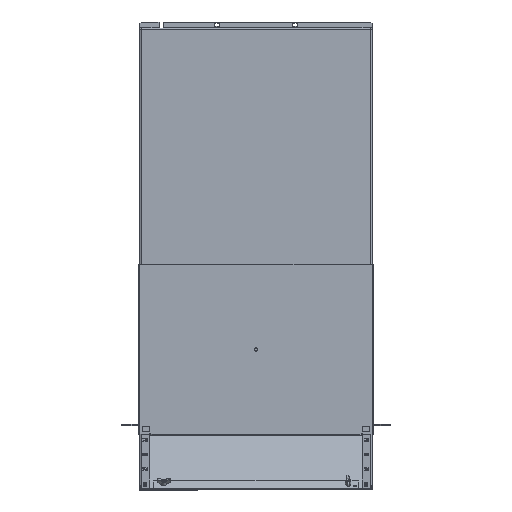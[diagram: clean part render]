
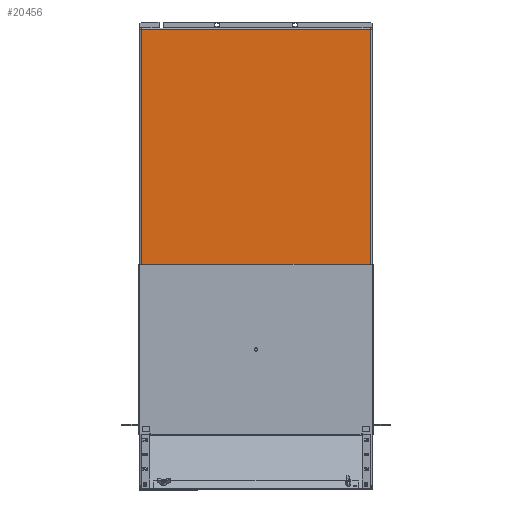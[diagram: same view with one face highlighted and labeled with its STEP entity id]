
A CAD part, top view. The second image highlights one B-rep face of the part: STEP entity #20456.
In plain terms, the highlighted planar face has unit normal (0, 0, 1).
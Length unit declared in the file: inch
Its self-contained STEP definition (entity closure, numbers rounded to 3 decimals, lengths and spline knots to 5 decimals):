
#19310=CARTESIAN_POINT('',(-8.48788,-2.04086,0.047));
#19311=VERTEX_POINT('',#19310);
#19318=CARTESIAN_POINT('',(-8.23788,-2.04086,0.047));
#19319=VERTEX_POINT('',#19318);
#19320=CARTESIAN_POINT('',(-8.36288,-2.04086,0.047));
#19321=DIRECTION('',(0.0,0.0,-1.0));
#19322=DIRECTION('',(0.0,1.0,0.0));
#19323=AXIS2_PLACEMENT_3D('',#19320,#19321,#19322);
#19324=CIRCLE('',#19323,0.125);
#19325=EDGE_CURVE('',#19319,#19311,#19324,.T.);
#19350=CARTESIAN_POINT('',(-8.23788,2.70914,0.047));
#19351=VERTEX_POINT('',#19350);
#19352=CARTESIAN_POINT('',(-8.23788,2.70914,0.047));
#19353=DIRECTION('',(0.0,-1.0,0.0));
#19354=VECTOR('',#19353,4.75);
#19355=LINE('',#19352,#19354);
#19356=EDGE_CURVE('',#19351,#19319,#19355,.T.);
#19382=CARTESIAN_POINT('',(-8.48788,2.70914,0.047));
#19383=VERTEX_POINT('',#19382);
#19384=CARTESIAN_POINT('',(-8.36288,2.70914,0.047));
#19385=DIRECTION('',(0.0,0.0,-1.0));
#19386=DIRECTION('',(0.0,-1.0,0.0));
#19387=AXIS2_PLACEMENT_3D('',#19384,#19385,#19386);
#19388=CIRCLE('',#19387,0.125);
#19389=EDGE_CURVE('',#19383,#19351,#19388,.T.);
#19412=CARTESIAN_POINT('',(-8.48788,-2.04086,0.047));
#19413=DIRECTION('',(0.0,1.0,0.0));
#19414=VECTOR('',#19413,4.75);
#19415=LINE('',#19412,#19414);
#19416=EDGE_CURVE('',#19311,#19383,#19415,.T.);
#19648=CARTESIAN_POINT('',(-16.47338,-3.41586,0.047));
#19649=VERTEX_POINT('',#19648);
#19658=CARTESIAN_POINT('',(-16.47338,-3.33886,0.047));
#19659=VERTEX_POINT('',#19658);
#19660=CARTESIAN_POINT('',(-16.47338,-3.33886,0.047));
#19661=DIRECTION('',(0.0,-1.0,0.0));
#19662=VECTOR('',#19661,0.077);
#19663=LINE('',#19660,#19662);
#19664=EDGE_CURVE('',#19659,#19649,#19663,.T.);
#19785=CARTESIAN_POINT('',(-0.25238,-3.41586,0.047));
#19786=VERTEX_POINT('',#19785);
#19793=CARTESIAN_POINT('',(-0.25238,-3.41586,0.047));
#19794=DIRECTION('',(-1.0,0.0,0.0));
#19795=VECTOR('',#19794,16.221);
#19796=LINE('',#19793,#19795);
#19797=EDGE_CURVE('',#19786,#19649,#19796,.T.);
#19975=CARTESIAN_POINT('',(-0.25238,-3.33886,0.047));
#19976=VERTEX_POINT('',#19975);
#19983=CARTESIAN_POINT('',(-0.25238,-3.41586,0.047));
#19984=DIRECTION('',(0.0,1.0,0.0));
#19985=VECTOR('',#19984,0.077);
#19986=LINE('',#19983,#19985);
#19987=EDGE_CURVE('',#19786,#19976,#19986,.T.);
#20071=CARTESIAN_POINT('',(-0.25238,24.50714,0.047));
#20072=VERTEX_POINT('',#20071);
#20080=CARTESIAN_POINT('',(-0.25238,-3.33886,0.047));
#20081=DIRECTION('',(0.0,1.0,0.0));
#20082=VECTOR('',#20081,27.846);
#20083=LINE('',#20080,#20082);
#20084=EDGE_CURVE('',#19976,#20072,#20083,.T.);
#20256=CARTESIAN_POINT('',(-16.47338,24.50714,0.047));
#20257=VERTEX_POINT('',#20256);
#20362=CARTESIAN_POINT('',(-16.47338,24.50714,0.047));
#20363=DIRECTION('',(0.0,-1.0,0.0));
#20364=VECTOR('',#20363,27.846);
#20365=LINE('',#20362,#20364);
#20366=EDGE_CURVE('',#20257,#19659,#20365,.T.);
#20420=CARTESIAN_POINT('',(-0.25238,24.50714,0.047));
#20421=DIRECTION('',(-1.0,0.0,0.0));
#20422=VECTOR('',#20421,16.221);
#20423=LINE('',#20420,#20422);
#20424=EDGE_CURVE('',#20072,#20257,#20423,.T.);
#20437=CARTESIAN_POINT('',(-8.36288,10.58414,0.047));
#20438=DIRECTION('',(0.0,0.0,1.0));
#20439=DIRECTION('',(1.0,0.0,0.0));
#20440=AXIS2_PLACEMENT_3D('',#20437,#20438,#20439);
#20441=PLANE('',#20440);
#20442=ORIENTED_EDGE('',*,*,#20366,.T.);
#20443=ORIENTED_EDGE('',*,*,#19664,.T.);
#20444=ORIENTED_EDGE('',*,*,#19797,.F.);
#20445=ORIENTED_EDGE('',*,*,#19987,.T.);
#20446=ORIENTED_EDGE('',*,*,#20084,.T.);
#20447=ORIENTED_EDGE('',*,*,#20424,.T.);
#20448=EDGE_LOOP('',(#20442,#20443,#20444,#20445,#20446,#20447));
#20449=FACE_OUTER_BOUND('',#20448,.T.);
#20450=ORIENTED_EDGE('',*,*,#19325,.T.);
#20451=ORIENTED_EDGE('',*,*,#19416,.T.);
#20452=ORIENTED_EDGE('',*,*,#19389,.T.);
#20453=ORIENTED_EDGE('',*,*,#19356,.T.);
#20454=EDGE_LOOP('',(#20450,#20451,#20452,#20453));
#20455=FACE_BOUND('',#20454,.T.);
#20456=ADVANCED_FACE('',(#20449,#20455),#20441,.T.);
